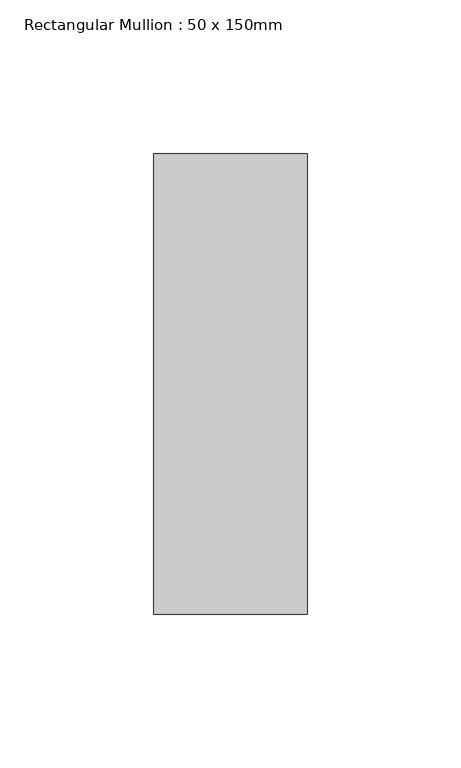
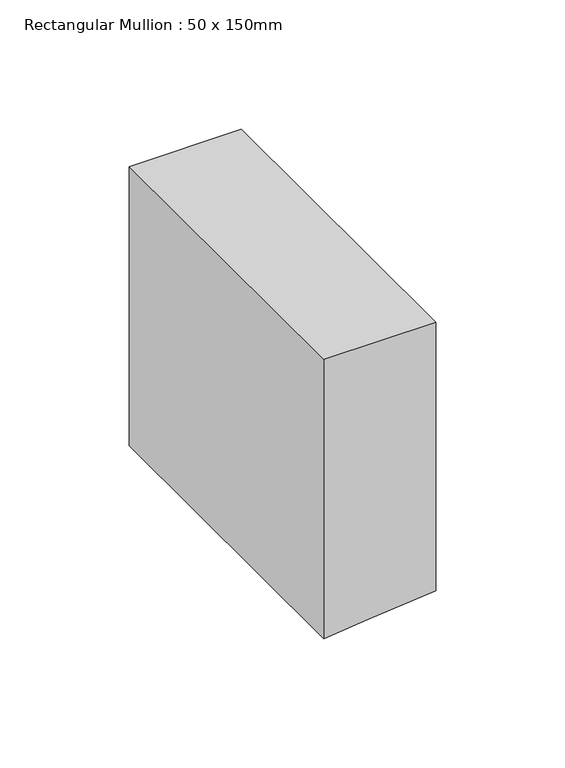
"""IFC4 building model written with IfcOpenShell, lengths in millimetres: member geometry, Rectangular Mullion : 50 x 150mm."""

from ifc_helpers import new_model, si_unit, frame, origin, place, context, project, spatial, polyline, outline, extrude, source, transform, mapped, element, save


def rectangular_mullion_50_x_150mm_acb12cad(model_context):
    return source(origin(), model_context, "Body", "SweptSolid", [
        extrude(outline(polyline([(0.0, 25.0), (0.0, -25.0), (-131.7116371, -25.0), (-129.70087, -5.0022633), (-126.6841504, 25.0), (0.0, 25.0)])), frame((0.0, -75.0, 0.0), z_axis=(0.0, 1.0, 0.0), x_axis=(0.0, 0.0, 1.0)), (0.0, 0.0, 1.0), 150.0),
    ])


if __name__ == "__main__":
    model = new_model("IFC4")
    model_context = context("Model", 3, world=origin())
    ifc_project = project(units=[si_unit("LENGTHUNIT", "METRE", prefix="MILLI")], contexts=[model_context])
    site = spatial("IfcSite", under=ifc_project)
    building = spatial("IfcBuilding", under=site)
    placement = place(None, origin())
    rectangular_mullion_50_x_150mm_shape = rectangular_mullion_50_x_150mm_acb12cad(model_context)
    element("IfcMember", 1, ObjectType="Rectangular Mullion : 50 x 150mm", at=placement, inside=building, context=model_context, shape_type="MappedRepresentation", body=[
        mapped(rectangular_mullion_50_x_150mm_shape, transform((0.0, 0.0, 0.0), x_axis=(1.0, 0.0, 0.0), y_axis=(0.0, 1.0, 0.0), z_axis=(0.0, 0.0, 1.0))),
    ])
    save(model, "model.ifc")
